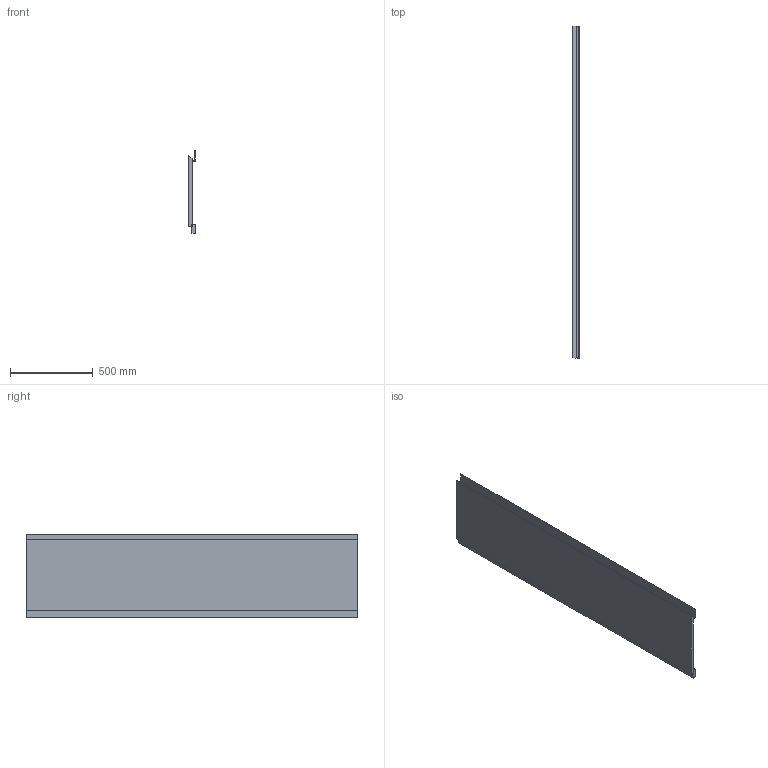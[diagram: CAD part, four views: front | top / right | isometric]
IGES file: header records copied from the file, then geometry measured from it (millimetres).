
Start section: Data from Parasolid IGES Translator 22.0.50, Copyright(c) 2006 Siemens P LM Software. All Rights Reserved.
Global section: file name: noorth-bathtub-covering panels_5472-5473.igs; native system: By Siemens PLM Incorporated; preprocessor: XPlus GENERIC/IGES 22.0.50; author: Noname; organization: Noname; date: 20250706.164320; units: metre
Bounding box: 38 x 2000 x 500 mm (x, y, z)
Volume: 18535095.2 mm3; surface area: 2429405.9 mm2
Topology: 3 solids, 3 shells, 20 faces, 42 edges, 28 vertices
Faces by surface type: plane 20
